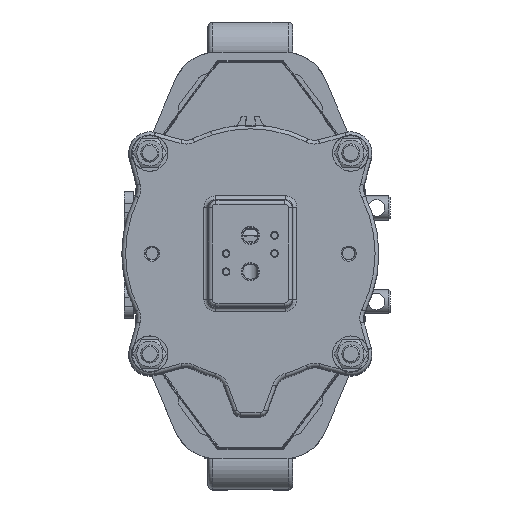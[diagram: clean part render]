
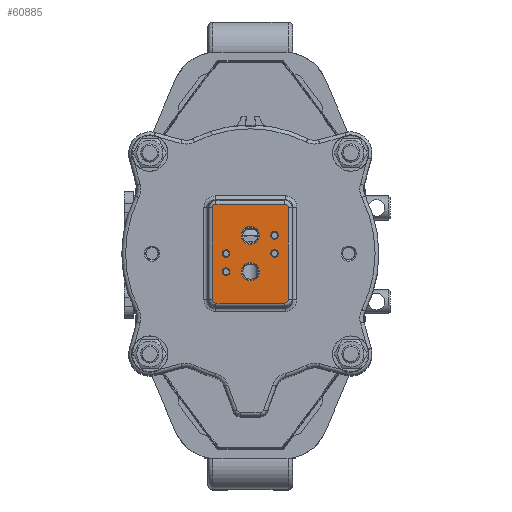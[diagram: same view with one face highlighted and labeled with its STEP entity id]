
A CAD part, top view. The second image highlights one B-rep face of the part: STEP entity #60885.
In plain terms, the highlighted planar face has unit normal (0, 0, 1).
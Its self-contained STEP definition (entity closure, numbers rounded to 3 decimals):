
#1420=FACE_BOUND('',#11566,.T.);
#1421=FACE_BOUND('',#11567,.T.);
#1422=FACE_BOUND('',#11568,.T.);
#1423=FACE_BOUND('',#11569,.T.);
#1424=FACE_BOUND('',#11570,.T.);
#1425=FACE_BOUND('',#11571,.T.);
#2956=PLANE('',#67397);
#3325=ELLIPSE('',#67398,2.519,2.5);
#3326=ELLIPSE('',#67399,2.519,2.5);
#3327=ELLIPSE('',#67400,2.519,2.5);
#3328=ELLIPSE('',#67401,2.519,2.5);
#7800=FACE_OUTER_BOUND('',#11565,.T.);
#11565=EDGE_LOOP('',(#55572,#55573,#55574,#55575,#55576,#55577,#55578,#55579));
#11566=EDGE_LOOP('',(#55580));
#11567=EDGE_LOOP('',(#55581));
#11568=EDGE_LOOP('',(#55582));
#11569=EDGE_LOOP('',(#55583));
#11570=EDGE_LOOP('',(#55584));
#11571=EDGE_LOOP('',(#55585));
#15029=CIRCLE('',#67396,2.5);
#15030=CIRCLE('',#67402,2.5);
#15031=CIRCLE('',#67403,2.5);
#15032=CIRCLE('',#67404,6.);
#15033=CIRCLE('',#67405,6.);
#15034=CIRCLE('',#67406,2.5);
#19009=LINE('',#124119,#22950);
#19010=LINE('',#124123,#22951);
#19011=LINE('',#124127,#22952);
#19012=LINE('',#124130,#22953);
#22950=VECTOR('',#84156,10.);
#22951=VECTOR('',#84159,10.);
#22952=VECTOR('',#84162,10.);
#22953=VECTOR('',#84165,10.);
#28737=VERTEX_POINT('',#124111);
#28738=VERTEX_POINT('',#124115);
#28739=VERTEX_POINT('',#124116);
#28740=VERTEX_POINT('',#124118);
#28741=VERTEX_POINT('',#124120);
#28742=VERTEX_POINT('',#124122);
#28743=VERTEX_POINT('',#124124);
#28744=VERTEX_POINT('',#124126);
#28745=VERTEX_POINT('',#124128);
#28746=VERTEX_POINT('',#124131);
#28747=VERTEX_POINT('',#124133);
#28748=VERTEX_POINT('',#124135);
#28749=VERTEX_POINT('',#124137);
#28750=VERTEX_POINT('',#124139);
#37754=EDGE_CURVE('',#28737,#28737,#15029,.T.);
#37755=EDGE_CURVE('',#28738,#28739,#3325,.T.);
#37756=EDGE_CURVE('',#28740,#28738,#19009,.T.);
#37757=EDGE_CURVE('',#28741,#28740,#3326,.T.);
#37758=EDGE_CURVE('',#28742,#28741,#19010,.T.);
#37759=EDGE_CURVE('',#28743,#28742,#3327,.T.);
#37760=EDGE_CURVE('',#28744,#28743,#19011,.T.);
#37761=EDGE_CURVE('',#28745,#28744,#3328,.T.);
#37762=EDGE_CURVE('',#28739,#28745,#19012,.T.);
#37763=EDGE_CURVE('',#28746,#28746,#15030,.T.);
#37764=EDGE_CURVE('',#28747,#28747,#15031,.T.);
#37765=EDGE_CURVE('',#28748,#28748,#15032,.T.);
#37766=EDGE_CURVE('',#28749,#28749,#15033,.T.);
#37767=EDGE_CURVE('',#28750,#28750,#15034,.T.);
#55572=ORIENTED_EDGE('',*,*,#37755,.F.);
#55573=ORIENTED_EDGE('',*,*,#37756,.F.);
#55574=ORIENTED_EDGE('',*,*,#37757,.F.);
#55575=ORIENTED_EDGE('',*,*,#37758,.F.);
#55576=ORIENTED_EDGE('',*,*,#37759,.F.);
#55577=ORIENTED_EDGE('',*,*,#37760,.F.);
#55578=ORIENTED_EDGE('',*,*,#37761,.F.);
#55579=ORIENTED_EDGE('',*,*,#37762,.F.);
#55580=ORIENTED_EDGE('',*,*,#37763,.F.);
#55581=ORIENTED_EDGE('',*,*,#37764,.F.);
#55582=ORIENTED_EDGE('',*,*,#37765,.F.);
#55583=ORIENTED_EDGE('',*,*,#37766,.F.);
#55584=ORIENTED_EDGE('',*,*,#37767,.F.);
#55585=ORIENTED_EDGE('',*,*,#37754,.F.);
#60885=ADVANCED_FACE('',(#7800,#1420,#1421,#1422,#1423,#1424,#1425),#2956,
 .F.);
#67396=AXIS2_PLACEMENT_3D('',#124113,#84150,#84151);
#67397=AXIS2_PLACEMENT_3D('',#124114,#84152,#84153);
#67398=AXIS2_PLACEMENT_3D('',#124117,#84154,#84155);
#67399=AXIS2_PLACEMENT_3D('',#124121,#84157,#84158);
#67400=AXIS2_PLACEMENT_3D('',#124125,#84160,#84161);
#67401=AXIS2_PLACEMENT_3D('',#124129,#84163,#84164);
#67402=AXIS2_PLACEMENT_3D('',#124132,#84166,#84167);
#67403=AXIS2_PLACEMENT_3D('',#124134,#84168,#84169);
#67404=AXIS2_PLACEMENT_3D('',#124136,#84170,#84171);
#67405=AXIS2_PLACEMENT_3D('',#124138,#84172,#84173);
#67406=AXIS2_PLACEMENT_3D('',#124140,#84174,#84175);
#84150=DIRECTION('center_axis',(0.,0.,
1.));
#84151=DIRECTION('ref_axis',(0.,1.,0.));
#84152=DIRECTION('center_axis',(0.,0.,
-1.));
#84153=DIRECTION('ref_axis',(0.,1.,0.));
#84154=DIRECTION('center_axis',(0.,0.,
-1.));
#84155=DIRECTION('ref_axis',(-0.707,-0.707,0.));
#84156=DIRECTION('',(-1.,0.,0.));
#84157=DIRECTION('center_axis',(0.,0.,
-1.));
#84158=DIRECTION('ref_axis',(0.707,-0.707,0.));
#84159=DIRECTION('',(0.,-1.,0.));
#84160=DIRECTION('center_axis',(0.,0.,
-1.));
#84161=DIRECTION('ref_axis',(0.707,0.707,0.));
#84162=DIRECTION('',(1.,0.,0.));
#84163=DIRECTION('center_axis',(0.,0.,
-1.));
#84164=DIRECTION('ref_axis',(-0.707,0.707,0.));
#84165=DIRECTION('',(0.,1.,0.));
#84166=DIRECTION('center_axis',(0.,0.,
1.));
#84167=DIRECTION('ref_axis',(0.,1.,0.));
#84168=DIRECTION('center_axis',(0.,0.,
1.));
#84169=DIRECTION('ref_axis',(0.,1.,0.));
#84170=DIRECTION('center_axis',(0.,0.,
1.));
#84171=DIRECTION('ref_axis',(0.,1.,0.));
#84172=DIRECTION('center_axis',(0.,0.,
1.));
#84173=DIRECTION('ref_axis',(0.,1.,0.));
#84174=DIRECTION('center_axis',(0.,0.,
1.));
#84175=DIRECTION('ref_axis',(0.,1.,0.));
#124111=CARTESIAN_POINT('',(16.,9.5,930.5));
#124113=CARTESIAN_POINT('Origin',(16.,12.,930.5));
#124114=CARTESIAN_POINT('Origin',(0.,0.,
930.5));
#124115=CARTESIAN_POINT('',(-22.719,-32.709,930.5));
#124116=CARTESIAN_POINT('',(-25.209,-30.219,930.5));
#124117=CARTESIAN_POINT('Origin',(-22.7,-30.2,930.5));
#124118=CARTESIAN_POINT('',(22.719,-32.709,930.5));
#124119=CARTESIAN_POINT('',(-13.75,-32.709,930.5));
#124120=CARTESIAN_POINT('',(25.209,-30.219,930.5));
#124121=CARTESIAN_POINT('Origin',(22.7,-30.2,930.5));
#124122=CARTESIAN_POINT('',(25.209,30.219,930.5));
#124123=CARTESIAN_POINT('',(25.209,-17.5,930.5));
#124124=CARTESIAN_POINT('',(22.719,32.709,930.5));
#124125=CARTESIAN_POINT('Origin',(22.7,30.2,930.5));
#124126=CARTESIAN_POINT('',(-22.719,32.709,930.5));
#124127=CARTESIAN_POINT('',(13.75,32.709,930.5));
#124128=CARTESIAN_POINT('',(-25.209,30.219,930.5));
#124129=CARTESIAN_POINT('Origin',(-22.7,30.2,930.5));
#124130=CARTESIAN_POINT('',(-25.209,17.5,930.5));
#124131=CARTESIAN_POINT('',(16.,-2.5,930.5));
#124132=CARTESIAN_POINT('Origin',(16.,0.,
930.5));
#124133=CARTESIAN_POINT('',(-16.,-14.5,930.5));
#124134=CARTESIAN_POINT('Origin',(-16.,-12.,930.5));
#124135=CARTESIAN_POINT('',(0.,-18.,930.5));
#124136=CARTESIAN_POINT('Origin',(0.,-12.,
930.5));
#124137=CARTESIAN_POINT('',(0.,6.,930.5));
#124138=CARTESIAN_POINT('Origin',(0.,12.,
930.5));
#124139=CARTESIAN_POINT('',(-16.,-2.5,930.5));
#124140=CARTESIAN_POINT('Origin',(-16.,0.,
930.5));
